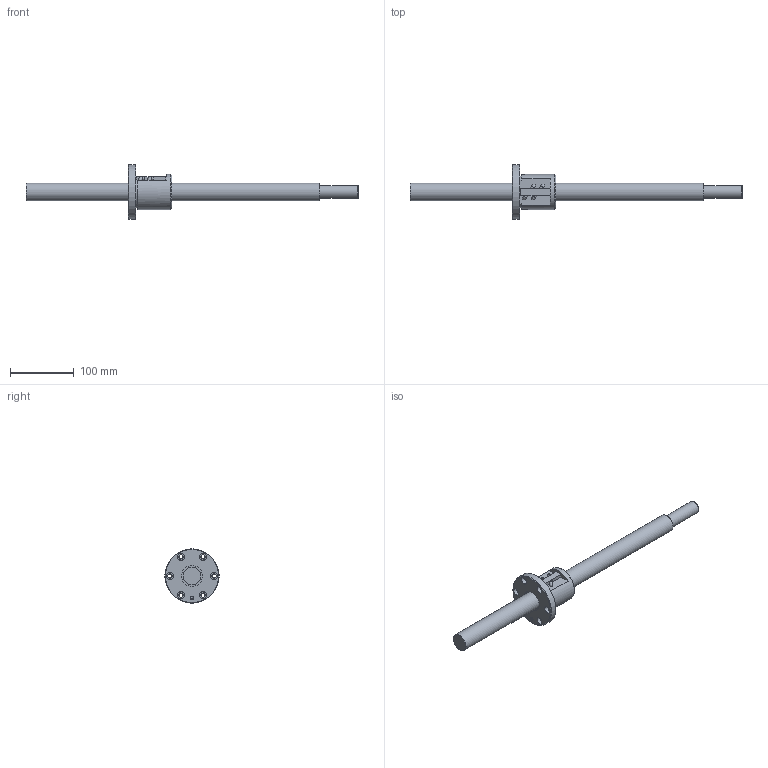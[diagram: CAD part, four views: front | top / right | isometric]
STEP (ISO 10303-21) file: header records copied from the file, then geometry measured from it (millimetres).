
FILE_DESCRIPTION(/* description */ ('STEP AP203'),/* implementation_level */ '2;1');
FILE_NAME(/* name */ 'BIF2806-5RRG0+520LC5A(00)',/* time_stamp */ '2024-07-15T07:28:20+02:00',/* author */ ('License CC BY-ND 4.0'),/* organization */ ('CADENAS'),/* preprocessor_version */ 'ST-DEVELOPER v19.3',/* originating_system */ 'PARTsolutions',/* authorisation */ ' ');
FILE_SCHEMA (('CONFIG_CONTROL_DESIGN'));
Length unit declared in the file: millimetre
Products named in the file (3): BIF2806-5RRG0+520LC5A(00); BIF2806-5RRG0+520LC5, C7A(0)_shaft; BIF 2806-5RR_nut
Assembly tree (2 placements, depth 2):
  BIF2806-5RRG0+520LC5A(00)
    BIF2806-5RRG0+520LC5, C7A(0)_shaft
    BIF 2806-5RR_nut
Bounding box: 520 x 85 x 85 mm (x, y, z)
Volume: 444641.2 mm3; surface area: 77653.8 mm2
Topology: 2 solids, 2 shells, 77 faces, 171 edges, 108 vertices
Faces by surface type: cylinder 36, plane 28, cone 9, torus 4
Full cylindrical faces by diameter (mm): 4.25 x2, 4.917 x1, 5.1 x4, 6.6 x6, 11 x6, 20.3 x1, 28 x2, 33 x2, 55 x1, 85 x1
Entity records: 2063 total; most frequent: CARTESIAN_POINT 390, DIRECTION 356, ORIENTED_EDGE 252, AXIS2_PLACEMENT_3D 162, EDGE_LOOP 146, FACE_BOUND 146, EDGE_CURVE 126, VERTEX_POINT 98
